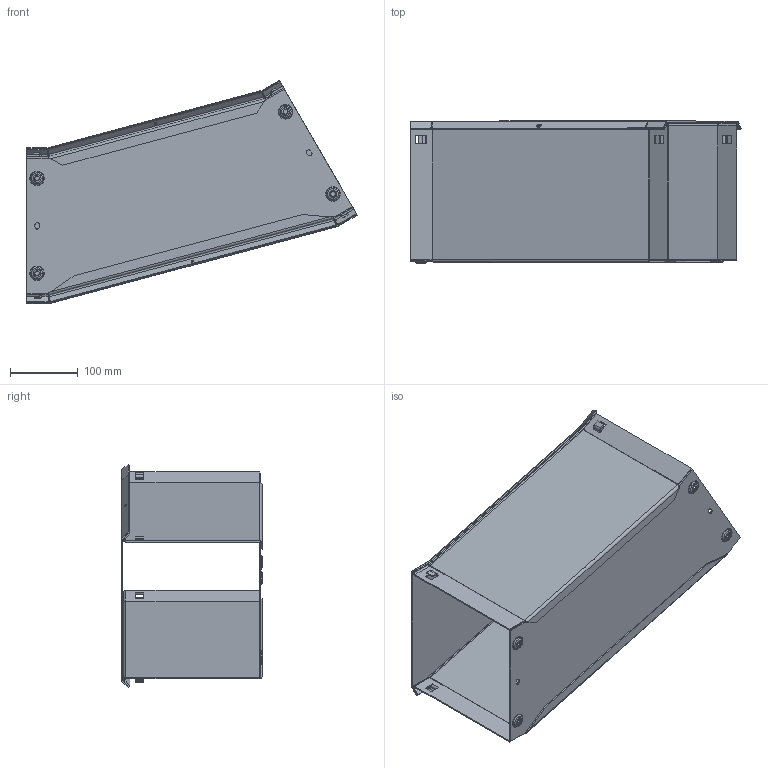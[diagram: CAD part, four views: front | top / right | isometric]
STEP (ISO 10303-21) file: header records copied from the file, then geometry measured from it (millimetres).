
FILE_DESCRIPTION (( 'STEP AP203' ), '1' );
FILE_NAME ('f88t3r30se.STEP', '2010-10-06T18:19:02', ( 'Hoffman User' ), ( 'Hoffman Enclosures' ), 'SwSTEP 2.0', 'SolidWorks 2009', '' );
FILE_SCHEMA (( 'CONFIG_CONTROL_DESIGN' ));
Length unit declared in the file: inch
Products named in the file (6): 87745888; 87745335; f88t3r30se; 87745873; 87567199; 87745313
Assembly tree (5 placements, depth 3):
  f88t3r30se
    87745335
    87745888
      87567199
      87745313
      87745873
Bounding box: 486.41 x 208.81 x 328.96 mm (x, y, z)
Volume: 715123.3 mm3; surface area: 793219.6 mm2
Topology: 4 solids, 4 shells, 356 faces, 844 edges, 504 vertices
Faces by surface type: plane 222, cylinder 82, torus 32, cone 16, bspline 4
Entity records: 10824 total; most frequent: DIRECTION 1834, CARTESIAN_POINT 1797, ORIENTED_EDGE 1688, EDGE_CURVE 844, AXIS2_PLACEMENT_3D 637, VECTOR 560, LINE 560, VERTEX_POINT 504
